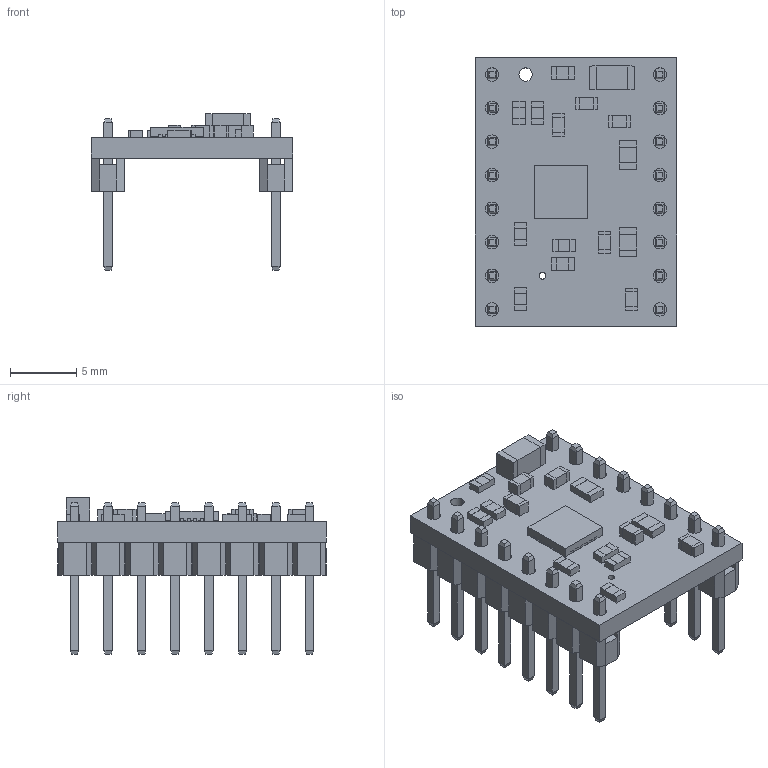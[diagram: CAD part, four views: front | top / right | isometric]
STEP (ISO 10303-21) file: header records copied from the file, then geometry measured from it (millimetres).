
FILE_DESCRIPTION (( 'STEP AP214' ), '1' );
FILE_NAME ('a5984_stepper_motor_driver_carrier_blue_edition_fixed_current_limit_versions.step', '2024-08-21T22:08:33', ( '' ), ( '' ), 'SwSTEP 2.0', 'SolidWorks 2023', '' );
FILE_SCHEMA (( 'AUTOMOTIVE_DESIGN' ));
Length unit declared in the file: millimetre
Products named in the file (1): a5984_stepper_motor_driver_carrier_blue_edition_fixed_current_limit_versions
Bounding box: 15.24 x 20.32 x 11.87 mm (x, y, z)
Volume: 776.4 mm3; surface area: 1773.1 mm2
Topology: 3 solids, 3 shells, 1268 faces, 3321 edges, 2126 vertices
Faces by surface type: plane 1023, bspline 173, cylinder 72
Entity records: 58540 total; most frequent: CARTESIAN_POINT 14445, ORIENTED_EDGE 6642, DIRECTION 5275, EDGE_CURVE 3321, VECTOR 2795, LINE 2795, VERTEX_POINT 2126, EDGE_LOOP 1419
